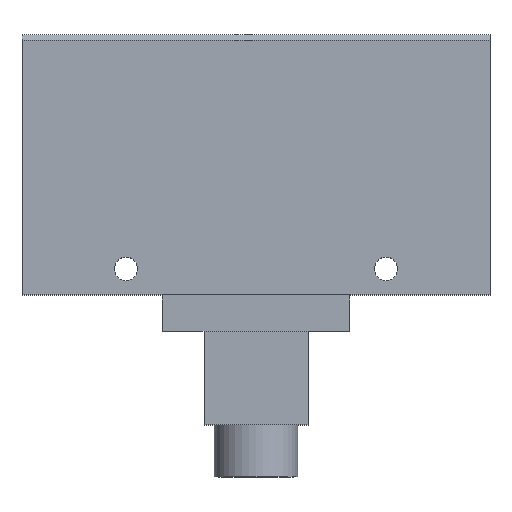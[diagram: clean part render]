
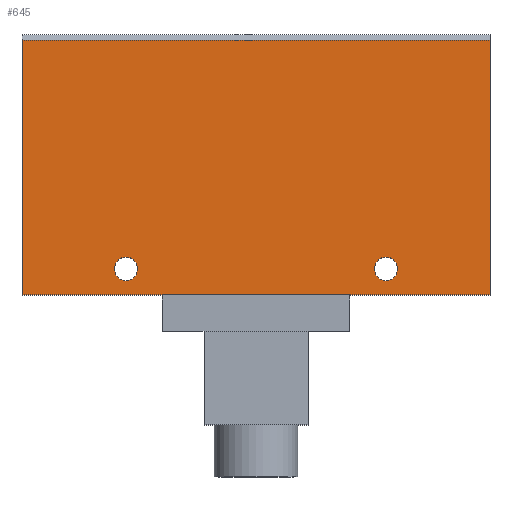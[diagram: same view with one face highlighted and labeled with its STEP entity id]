
A CAD part, top view. The second image highlights one B-rep face of the part: STEP entity #645.
In plain terms, the highlighted planar face has unit normal (0, 0, 1).
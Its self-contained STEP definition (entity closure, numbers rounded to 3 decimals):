
#28=FACE_BOUND('',#128,.T.);
#29=FACE_BOUND('',#129,.T.);
#43=PLANE('',#711);
#82=FACE_OUTER_BOUND('',#127,.T.);
#127=EDGE_LOOP('',(#527,#528,#529,#530));
#128=EDGE_LOOP('',(#531));
#129=EDGE_LOOP('',(#532));
#157=LINE('',#936,#232);
#162=LINE('',#946,#237);
#183=LINE('',#998,#258);
#185=LINE('',#1001,#260);
#232=VECTOR('',#761,10.);
#237=VECTOR('',#768,10.);
#258=VECTOR('',#819,10.);
#260=VECTOR('',#823,10.);
#306=CIRCLE('',#699,2.25);
#308=CIRCLE('',#702,2.25);
#316=VERTEX_POINT('',#929);
#319=VERTEX_POINT('',#934);
#323=VERTEX_POINT('',#944);
#330=VERTEX_POINT('',#964);
#332=VERTEX_POINT('',#970);
#339=VERTEX_POINT('',#997);
#377=EDGE_CURVE('',#319,#316,#157,.T.);
#382=EDGE_CURVE('',#323,#319,#162,.T.);
#391=EDGE_CURVE('',#330,#330,#306,.T.);
#394=EDGE_CURVE('',#332,#332,#308,.T.);
#407=EDGE_CURVE('',#339,#316,#183,.T.);
#409=EDGE_CURVE('',#339,#323,#185,.T.);
#527=ORIENTED_EDGE('',*,*,#377,.F.);
#528=ORIENTED_EDGE('',*,*,#382,.F.);
#529=ORIENTED_EDGE('',*,*,#409,.F.);
#530=ORIENTED_EDGE('',*,*,#407,.T.);
#531=ORIENTED_EDGE('',*,*,#391,.T.);
#532=ORIENTED_EDGE('',*,*,#394,.T.);
#645=ADVANCED_FACE('',(#82,#28,#29),#43,.T.);
#699=AXIS2_PLACEMENT_3D('',#965,#783,#784);
#702=AXIS2_PLACEMENT_3D('',#971,#790,#791);
#711=AXIS2_PLACEMENT_3D('',#1000,#821,#822);
#761=DIRECTION('',(1.,0.,0.));
#768=DIRECTION('',(0.,1.,0.));
#783=DIRECTION('center_axis',(0.,0.,-1.));
#784=DIRECTION('ref_axis',(1.,0.,0.));
#790=DIRECTION('center_axis',(0.,0.,-1.));
#791=DIRECTION('ref_axis',(1.,0.,0.));
#819=DIRECTION('',(0.,1.,0.));
#821=DIRECTION('center_axis',(0.,0.,1.));
#822=DIRECTION('ref_axis',(1.,0.,0.));
#823=DIRECTION('',(-1.,0.,0.));
#929=CARTESIAN_POINT('',(45.,84.,2.));
#934=CARTESIAN_POINT('',(-45.,84.,2.));
#936=CARTESIAN_POINT('',(-22.5,84.,2.));
#944=CARTESIAN_POINT('',(-45.,35.,2.));
#946=CARTESIAN_POINT('',(-45.,35.,2.));
#964=CARTESIAN_POINT('',(-27.25,40.,2.));
#965=CARTESIAN_POINT('Origin',(-25.,40.,2.));
#970=CARTESIAN_POINT('',(22.75,40.,2.));
#971=CARTESIAN_POINT('Origin',(25.,40.,2.));
#997=CARTESIAN_POINT('',(45.,35.,2.));
#998=CARTESIAN_POINT('',(45.,35.,2.));
#1000=CARTESIAN_POINT('Origin',(-45.,35.,2.));
#1001=CARTESIAN_POINT('',(45.,35.,2.));
